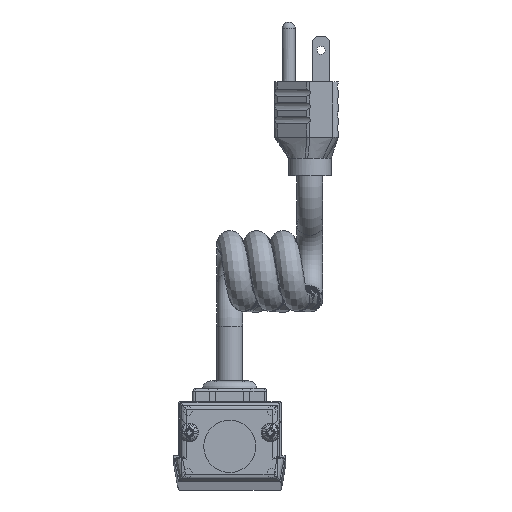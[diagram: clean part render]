
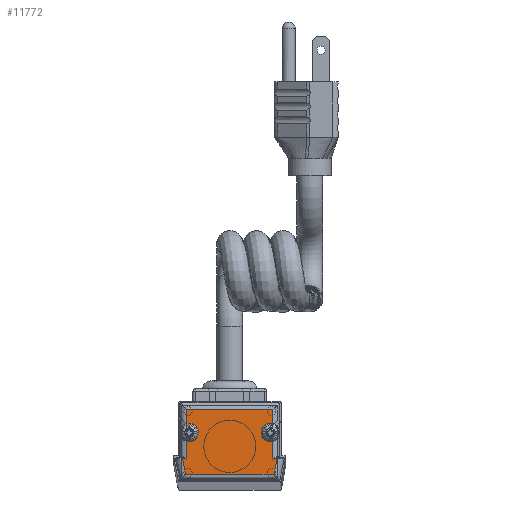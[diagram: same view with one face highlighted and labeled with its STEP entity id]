
A CAD part, top view. The second image highlights one B-rep face of the part: STEP entity #11772.
In plain terms, the highlighted planar face has unit normal (0, 0, 1).
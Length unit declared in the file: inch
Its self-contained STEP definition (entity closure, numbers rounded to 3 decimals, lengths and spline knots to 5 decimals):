
#897=CIRCLE('',#12776,1.5875);
#899=CIRCLE('',#12779,1.5875);
#900=CIRCLE('',#12780,1.5875);
#1484=FACE_OUTER_BOUND('',#2158,.T.);
#2158=EDGE_LOOP('',(#8508,#8509,#8510,#8511,#8512,#8513,#8514,#8515,#8516,
#8517,#8518,#8519,#8520));
#3007=LINE('',#17356,#4081);
#3008=LINE('',#17358,#4082);
#3009=LINE('',#17360,#4083);
#3010=LINE('',#17362,#4084);
#3011=LINE('',#17364,#4085);
#3012=LINE('',#17366,#4086);
#3013=LINE('',#17367,#4087);
#3014=LINE('',#17369,#4088);
#3015=LINE('',#17371,#4089);
#3016=LINE('',#17372,#4090);
#4081=VECTOR('',#14257,10.);
#4082=VECTOR('',#14258,10.);
#4083=VECTOR('',#14259,10.);
#4084=VECTOR('',#14260,10.);
#4085=VECTOR('',#14261,10.);
#4086=VECTOR('',#14262,10.);
#4087=VECTOR('',#14263,10.);
#4088=VECTOR('',#14264,10.);
#4089=VECTOR('',#14265,10.);
#4090=VECTOR('',#14266,10.);
#5127=VERTEX_POINT('',#17312);
#5128=VERTEX_POINT('',#17321);
#5130=VERTEX_POINT('',#17334);
#5131=VERTEX_POINT('',#17336);
#5132=VERTEX_POINT('',#17338);
#5133=VERTEX_POINT('',#17355);
#5134=VERTEX_POINT('',#17357);
#5135=VERTEX_POINT('',#17359);
#5136=VERTEX_POINT('',#17361);
#5137=VERTEX_POINT('',#17363);
#5138=VERTEX_POINT('',#17365);
#5139=VERTEX_POINT('',#17368);
#5140=VERTEX_POINT('',#17370);
#6403=EDGE_CURVE('',#5128,#5127,#897,.T.);
#6407=EDGE_CURVE('',#5131,#5130,#899,.T.);
#6409=EDGE_CURVE('',#5130,#5132,#900,.T.);
#6410=EDGE_CURVE('',#5133,#5127,#3007,.T.);
#6411=EDGE_CURVE('',#5134,#5133,#3008,.T.);
#6412=EDGE_CURVE('',#5135,#5134,#3009,.T.);
#6413=EDGE_CURVE('',#5136,#5135,#3010,.T.);
#6414=EDGE_CURVE('',#5137,#5136,#3011,.T.);
#6415=EDGE_CURVE('',#5138,#5137,#3012,.T.);
#6416=EDGE_CURVE('',#5131,#5138,#3013,.T.);
#6417=EDGE_CURVE('',#5139,#5132,#3014,.T.);
#6418=EDGE_CURVE('',#5140,#5139,#3015,.T.);
#6419=EDGE_CURVE('',#5128,#5140,#3016,.T.);
#8508=ORIENTED_EDGE('',*,*,#6403,.T.);
#8509=ORIENTED_EDGE('',*,*,#6410,.F.);
#8510=ORIENTED_EDGE('',*,*,#6411,.F.);
#8511=ORIENTED_EDGE('',*,*,#6412,.F.);
#8512=ORIENTED_EDGE('',*,*,#6413,.F.);
#8513=ORIENTED_EDGE('',*,*,#6414,.F.);
#8514=ORIENTED_EDGE('',*,*,#6415,.F.);
#8515=ORIENTED_EDGE('',*,*,#6416,.F.);
#8516=ORIENTED_EDGE('',*,*,#6407,.T.);
#8517=ORIENTED_EDGE('',*,*,#6409,.T.);
#8518=ORIENTED_EDGE('',*,*,#6417,.F.);
#8519=ORIENTED_EDGE('',*,*,#6418,.F.);
#8520=ORIENTED_EDGE('',*,*,#6419,.F.);
#11388=PLANE('',#12781);
#11772=ADVANCED_FACE('',(#1484),#11388,.T.);
#12776=AXIS2_PLACEMENT_3D('',#17322,#14244,#14245);
#12779=AXIS2_PLACEMENT_3D('',#17337,#14251,#14252);
#12780=AXIS2_PLACEMENT_3D('',#17353,#14253,#14254);
#12781=AXIS2_PLACEMENT_3D('',#17354,#14255,#14256);
#14244=DIRECTION('center_axis',(0.,0.,-1.));
#14245=DIRECTION('ref_axis',(1.,0.,0.));
#14251=DIRECTION('center_axis',(0.,0.,-1.));
#14252=DIRECTION('ref_axis',(1.,0.,0.));
#14253=DIRECTION('center_axis',(0.,0.,-1.));
#14254=DIRECTION('ref_axis',(1.,0.,0.));
#14255=DIRECTION('center_axis',(0.,0.,1.));
#14256=DIRECTION('ref_axis',(1.,0.,0.));
#14257=DIRECTION('',(0.,1.,0.));
#14258=DIRECTION('',(0.996,-0.087,0.));
#14259=DIRECTION('',(-0.191,0.982,0.));
#14260=DIRECTION('',(-1.,0.,0.));
#14261=DIRECTION('',(-0.191,-0.982,0.));
#14262=DIRECTION('',(0.996,0.087,0.));
#14263=DIRECTION('',(0.,-1.,0.));
#14264=DIRECTION('',(0.,-1.,0.));
#14265=DIRECTION('',(1.,0.,0.));
#14266=DIRECTION('',(0.,1.,0.));
#17312=CARTESIAN_POINT('',(-15.7226,16.40547,2.54));
#17321=CARTESIAN_POINT('',(-15.7226,19.05293,2.54));
#17322=CARTESIAN_POINT('Origin',(-14.8463,17.7292,2.54));
#17334=CARTESIAN_POINT('',(13.2588,17.7292,2.54));
#17336=CARTESIAN_POINT('',(15.7226,16.40547,2.54));
#17337=CARTESIAN_POINT('Origin',(14.8463,17.7292,2.54));
#17338=CARTESIAN_POINT('',(15.7226,19.05293,2.54));
#17353=CARTESIAN_POINT('Origin',(14.8463,17.7292,2.54));
#17354=CARTESIAN_POINT('Origin',(0.,14.10876,
2.54));
#17355=CARTESIAN_POINT('',(-15.7226,8.06566,2.54));
#17356=CARTESIAN_POINT('',(-15.7226,11.38955,2.54));
#17357=CARTESIAN_POINT('',(-17.26917,8.20097,2.54));
#17358=CARTESIAN_POINT('',(-10.32721,7.59363,2.54));
#17359=CARTESIAN_POINT('',(-16.16879,2.54,2.54));
#17360=CARTESIAN_POINT('',(-16.75812,5.57187,2.54));
#17361=CARTESIAN_POINT('',(16.16879,2.54,2.54));
#17362=CARTESIAN_POINT('',(9.1313,2.54,2.54));
#17363=CARTESIAN_POINT('',(17.26917,8.20097,2.54));
#17364=CARTESIAN_POINT('',(17.61537,9.98204,2.54));
#17365=CARTESIAN_POINT('',(15.7226,8.06566,2.54));
#17366=CARTESIAN_POINT('',(9.46996,7.51863,2.54));
#17367=CARTESIAN_POINT('',(15.7226,21.34188,2.54));
#17368=CARTESIAN_POINT('',(15.7226,26.035,2.54));
#17369=CARTESIAN_POINT('',(15.7226,21.34188,2.54));
#17370=CARTESIAN_POINT('',(-15.7226,26.035,2.54));
#17371=CARTESIAN_POINT('',(-9.1313,26.035,2.54));
#17372=CARTESIAN_POINT('',(-15.7226,11.38955,2.54));
